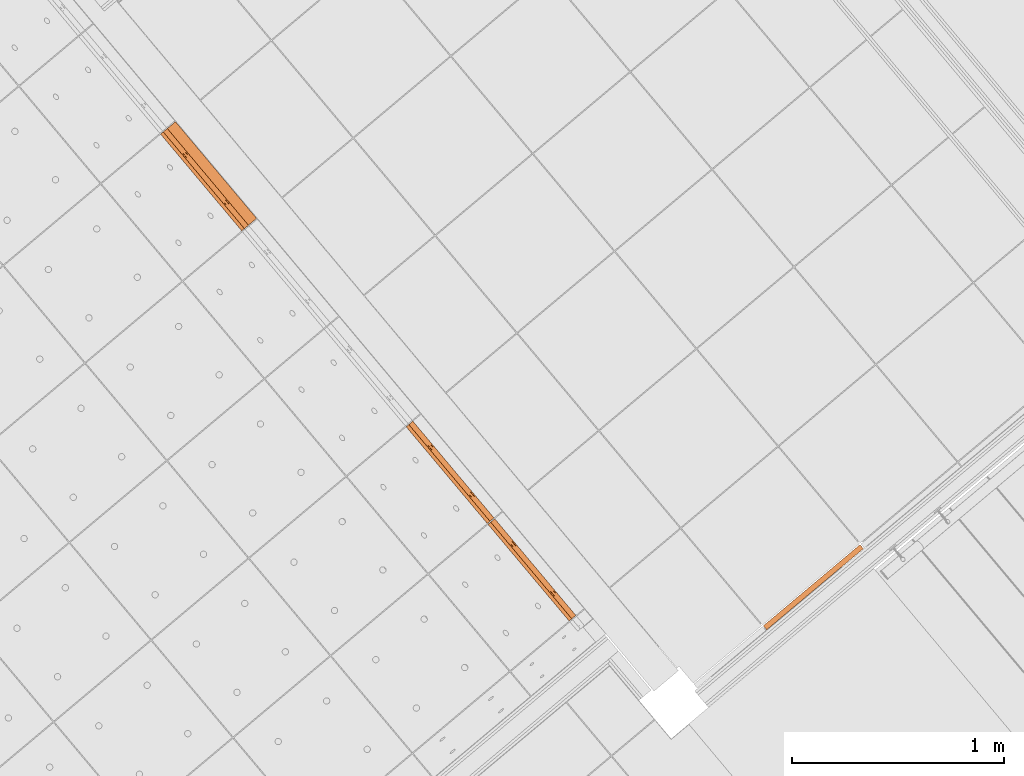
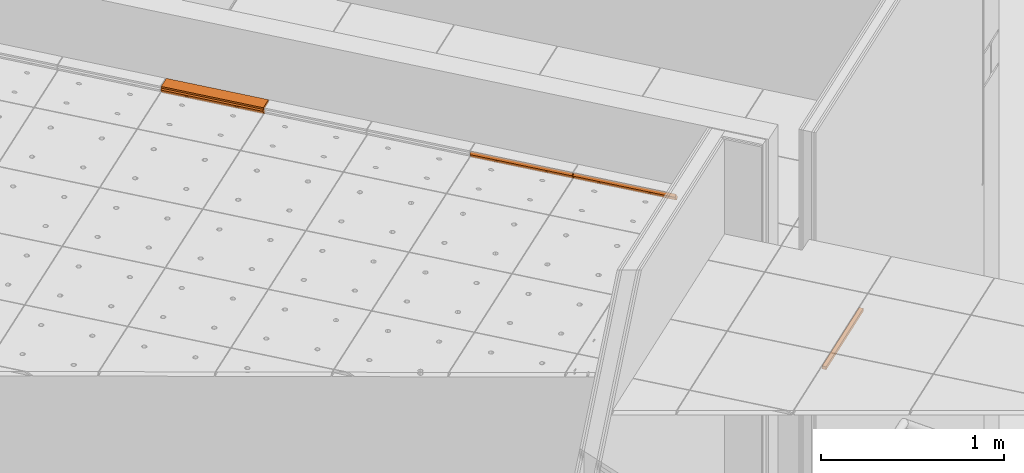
# One storey, part 204 of 338: 5 proxies, 2 elements without a shape of their own.
"""IFC2X3 building model written with IfcOpenShell, lengths in millimetres."""

from ifc_helpers import new_model, entity, si_unit, converted_unit, derived_unit, money_unit, direction, frame, origin_with_axes, place, context, subcontext, project, spatial, faceted_brep, source, transform, mapped, material, type_object, type_shapes, element, aggregate, save


model = new_model("IFC2X3")

# Units and contexts
model_context = context("Model", 3, precision=0.01, world=origin_with_axes(), true_north=direction((0.0, 1.0)))
plan_context = context("Plan", 3, precision=0.01, world=origin_with_axes(), true_north=direction((0.0, 1.0)))
body_context = subcontext(model_context, "Body", "Model", "MODEL_VIEW")
ifc_project = project(units=[si_unit("LENGTHUNIT", "METRE", prefix="MILLI"), si_unit("AREAUNIT", "SQUARE_METRE"), si_unit("VOLUMEUNIT", "CUBIC_METRE"), converted_unit("PLANEANGLEUNIT", "DEGREE", entity("IfcPlaneAngleMeasure", 0.0174532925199), si_unit("PLANEANGLEUNIT", "RADIAN"), dimensions=[0, 0, 0, 0, 0, 0, 0]), money_unit("EUR"), converted_unit("TIMEUNIT", "Year", entity("IfcTimeMeasure", 31556926.0), si_unit("TIMEUNIT", "SECOND"), dimensions=[0, 0, 1, 0, 0, 0, 0]), si_unit("MASSUNIT", "GRAM", prefix="KILO"), si_unit("THERMODYNAMICTEMPERATUREUNIT", "DEGREE_CELSIUS"), si_unit("LUMINOUSINTENSITYUNIT", "LUMEN"), si_unit("ENERGYUNIT", "JOULE", prefix="MEGA"), derived_unit("THERMALCONDUCTANCEUNIT", [(si_unit("POWERUNIT", "WATT"), 1), (si_unit("LENGTHUNIT", "METRE"), -1), (si_unit("THERMODYNAMICTEMPERATUREUNIT", "KELVIN"), -1)]), derived_unit("SPECIFICHEATCAPACITYUNIT", [(si_unit("ENERGYUNIT", "JOULE"), 1), (si_unit("MASSUNIT", "GRAM", prefix="KILO"), -1), (si_unit("THERMODYNAMICTEMPERATUREUNIT", "KELVIN"), -1)]), derived_unit("MASSDENSITYUNIT", [(si_unit("MASSUNIT", "GRAM", prefix="KILO"), 1), (si_unit("VOLUMEUNIT", "CUBIC_METRE"), -1)])], contexts=[model_context, plan_context])

# Site, building, storey
site_placement = place(None, origin_with_axes())
site = spatial("IfcSite", under=ifc_project, at=site_placement, Name="Fortuinstraat Woensdrecht", CompositionType="ELEMENT")
building_placement = place(site_placement, origin_with_axes())
building = spatial("IfcBuilding", under=site, at=building_placement, Name="IKC Fortuna", CompositionType="ELEMENT")
storey_placement = place(building_placement, origin_with_axes())
storey = spatial("IfcBuildingStorey", under=building, at=storey_placement, Name="00 begane grond", CompositionType="ELEMENT", Elevation=0.0)

# Covering, proxy
covering_type = type_object("IfcCoveringType", Name="Curtain Wall Type", PredefinedType="CEILING")
covering_1_placement = place(storey_placement, frame((15581.2998521, 5435.5548951, 3210.0), z_axis=(0.0, 0.0, 1.0), x_axis=(1.0, 0.0, 0.0)))
covering_1 = element("IfcCovering", 1, at=covering_1_placement, inside=storey, type_object=covering_type, Name="45_Plafondafwerking_P02 v", PredefinedType="CEILING")
ifc_material = material(Name="Gipsplaat")
building_element_proxy_type_1 = type_object("IfcBuildingElementProxyType", Name="Distinct Panel 600 x 30 x 20", PredefinedType="NOTDEFINED")
shared_shape_1 = source(origin_with_axes(), body_context, "Body", "Brep", [
    faceted_brep([(-597.500005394, 2.49999903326, -10.0), (-597.500005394, 2.49999903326, 10.0), (-597.500008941, 27.4101366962, 10.0), (-597.500008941, 27.4101366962, -10.0), (-2.499999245, 2.49998852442, -10.0), (-2.499999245, 2.49998852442, 10.0), (-2.49999822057, 27.4101316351, 10.0), (-2.49999822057, 27.4101316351, -10.0)], [[[0, 1, 2, 3]], [[4, 5, 1, 0]], [[1, 5, 6, 2]], [[3, 2, 6, 7]], [[0, 3, 7, 4]], [[7, 6, 5, 4]]]),
])
type_shapes(building_element_proxy_type_1, [shared_shape_1])
proxy_1_placement = place(covering_1_placement, frame((1372.04181394, -826.35350377, 0.0), z_axis=(0.0, 0.0, 1.0), x_axis=(1.0, 0.0, 0.0)))
proxy_1 = element("IfcBuildingElementProxy", 2, at=proxy_1_placement, type_object=building_element_proxy_type_1, material=ifc_material, Name="__Panel-D", context=body_context, shape_type="MappedRepresentation", body=[
    mapped(shared_shape_1, transform((-239.426237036, -181.380073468, 0.0), x_axis=(-0.766044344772, -0.642787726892, 0.0), y_axis=(0.642787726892, -0.766044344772, 0.0), z_axis=(0.0, 0.0, 1.0))),
])
aggregate(covering_1, [proxy_1])

# Covering, proxies
covering_2_placement = place(storey_placement, frame((15863.124366, 4456.31398675, 4619.99995334), z_axis=(0.0, 0.0, 1.0), x_axis=(1.0, 0.0, 0.0)))
covering_2 = element("IfcCovering", 3, at=covering_2_placement, inside=storey, type_object=covering_type, Name="45_Plafondafwerking_P01", PredefinedType="CEILING")
building_element_proxy_type_2 = type_object("IfcBuildingElementProxyType", Name="87 x 600 x 20", PredefinedType="NOTDEFINED")
shared_shape_2 = source(origin_with_axes(), body_context, "Body", "Brep", [
    faceted_brep([(142.231825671, 2.50000288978, -10.0), (224.589027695, 2.49999998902, -10.0), (224.589027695, 2.49999998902, 10.0), (142.231825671, 2.50000288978, 10.0), (142.231835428, 597.500004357, -10.0), (224.589037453, 597.500001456, -10.0), (224.589037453, 597.500001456, 10.0), (142.231835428, 597.500004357, 10.0)], [[[0, 1, 2, 3]], [[0, 4, 5, 1]], [[1, 5, 6, 2]], [[3, 2, 6, 7]], [[4, 0, 3, 7]], [[5, 4, 7, 6]]]),
])
type_shapes(building_element_proxy_type_2, [shared_shape_2])
proxy_2_placement = place(covering_2_placement, frame((-1755.64329393, 2092.29314737, 40.0000466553), z_axis=(0.0, 0.0, 1.0), x_axis=(1.0, 0.0, 0.0)))
proxy_2 = element("IfcBuildingElementProxy", 4, at=proxy_2_placement, type_object=building_element_proxy_type_2, material=ifc_material, Name="__600x725 Rockfon Krios", context=body_context, shape_type="MappedRepresentation", body=[
    mapped(shared_shape_2, transform((-52.3358293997, 347.707272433, -1.1901590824e-10), x_axis=(-0.766044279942, -0.642787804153, 0.0), y_axis=(0.642787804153, -0.766044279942, 0.0), z_axis=(0.0, 0.0, 1.0))),
])
building_element_proxy_type_3 = type_object("IfcBuildingElementProxyType", Name="Main Panel 49 x 600 x 20", PredefinedType="NOTDEFINED")
shared_shape_3 = source(origin_with_axes(), body_context, "Body", "Brep", [
    faceted_brep([(2.49999685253, 2.49999999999, -10.0), (24.3452153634, 2.49999999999, -10.0), (24.3452153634, 2.49999999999, 10.0), (2.49999685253, 2.49999999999, 10.0), (2.49999685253, 300.0, -10.0), (2.49999685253, 597.5, -10.0), (24.3452153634, 597.5, -10.0), (46.1904338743, 597.5, -10.0), (46.1904338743, 300.0, -10.0), (46.1904338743, 2.49999999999, -10.0), (14.5240456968, 450.06232995, -10.0), (14.4905790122, 452.64711538, -10.0), (14.4246625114, 455.11348892, -10.0), (14.3282990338, 457.38651108, -10.0), (14.204416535, 459.39711721, -10.0), (14.0567791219, 461.08421608, -10.0), (13.8898726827, 462.39654603, -10.0), (13.7087685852, 463.29423259, -10.0), (13.5189695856, 463.75, -10.0), (13.3262426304, 463.75, -10.0), (13.1364436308, 463.29423259, -10.0), (12.9553395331, 462.39654603, -10.0), (12.788433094, 461.08421608, -10.0), (12.640795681, 459.39711721, -10.0), (12.5169131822, 457.38651108, -10.0), (12.4205497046, 455.11348892, -10.0), (12.3546332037, 452.64711538, -10.0), (12.3211665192, 450.06232995, -10.0), (12.3211665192, 448.75, -10.0), (12.3211665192, 447.43767005, -10.0), (12.3546332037, 444.85288462, -10.0), (12.4205497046, 442.38651108, -10.0), (12.5169131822, 440.11348892, -10.0), (12.640795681, 438.10288279, -10.0), (12.788433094, 436.41578392, -10.0), (12.9553395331, 435.10345397, -10.0), (13.1364436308, 434.20576741, -10.0), (13.3262426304, 433.75, -10.0), (13.5189695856, 433.75, -10.0), (13.7087685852, 434.20576741, -10.0), (13.8898726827, 435.10345397, -10.0), (14.0567791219, 436.41578392, -10.0), (14.204416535, 438.10288279, -10.0), (14.3282990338, 440.11348892, -10.0), (14.4246625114, 442.38651108, -10.0), (14.4905790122, 444.85288462, -10.0), (14.5240456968, 447.43767005, -10.0), (36.3692642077, 450.06232995, -10.0), (36.3357975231, 452.64711538, -10.0), (36.2698810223, 455.11348892, -10.0), (36.1735175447, 457.38651108, -10.0), (36.0496350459, 459.39711721, -10.0), (35.9019976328, 461.08421608, -10.0), (35.7350911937, 462.39654603, -10.0), (35.5539870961, 463.29423259, -10.0), (35.3641880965, 463.75, -10.0), (35.1714611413, 463.75, -10.0), (34.9816621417, 463.29423259, -10.0), (34.800558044, 462.39654603, -10.0), (34.6336516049, 461.08421608, -10.0), (34.4860141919, 459.39711721, -10.0), (34.3621316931, 457.38651108, -10.0), (34.2657682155, 455.11348892, -10.0), (34.1998517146, 452.64711538, -10.0), (34.1663850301, 450.06232995, -10.0), (34.1663850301, 448.75, -10.0), (34.1663850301, 447.43767005, -10.0), (34.1998517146, 444.85288462, -10.0), (34.2657682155, 442.38651108, -10.0), (34.3621316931, 440.11348892, -10.0), (34.4860141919, 438.10288279, -10.0), (34.6336516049, 436.41578392, -10.0), (34.800558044, 435.10345397, -10.0), (34.9816621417, 434.20576741, -10.0), (35.1714611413, 433.75, -10.0), (35.3641880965, 433.75, -10.0), (35.5539870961, 434.20576741, -10.0), (35.7350911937, 435.10345397, -10.0), (35.9019976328, 436.41578392, -10.0), (36.0496350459, 438.10288279, -10.0), (36.1735175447, 440.11348892, -10.0), (36.2698810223, 442.38651108, -10.0), (36.3357975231, 444.85288462, -10.0), (36.3692642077, 447.43767005, -10.0), (36.3692642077, 152.56232995, -10.0), (36.3357975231, 155.14711538, -10.0), (36.2698810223, 157.61348892, -10.0), (36.1735175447, 159.88651108, -10.0), (36.0496350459, 161.89711721, -10.0), (35.9019976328, 163.58421608, -10.0), (35.7350911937, 164.89654603, -10.0), (35.5539870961, 165.79423259, -10.0), (35.3641880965, 166.25, -10.0), (35.1714611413, 166.25, -10.0), (34.9816621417, 165.79423259, -10.0), (34.800558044, 164.89654603, -10.0), (34.6336516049, 163.58421608, -10.0), (34.4860141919, 161.89711721, -10.0), (34.3621316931, 159.88651108, -10.0), (34.2657682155, 157.61348892, -10.0), (34.1998517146, 155.14711538, -10.0), (34.1663850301, 152.56232995, -10.0), (34.1663850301, 151.25, -10.0), (34.1663850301, 149.93767005, -10.0), (34.1998517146, 147.35288462, -10.0), (34.2657682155, 144.88651108, -10.0), (34.3621316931, 142.61348892, -10.0), (34.4860141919, 140.60288279, -10.0), (34.6336516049, 138.91578392, -10.0), (34.800558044, 137.60345397, -10.0), (34.9816621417, 136.70576741, -10.0), (35.1714611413, 136.25, -10.0), (35.3641880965, 136.25, -10.0), (35.5539870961, 136.70576741, -10.0), (35.7350911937, 137.60345397, -10.0), (35.9019976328, 138.91578392, -10.0), (36.0496350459, 140.60288279, -10.0), (36.1735175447, 142.61348892, -10.0), (36.2698810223, 144.88651108, -10.0), (36.3357975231, 147.35288462, -10.0), (36.3692642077, 149.93767005, -10.0), (14.5240456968, 152.56232995, -10.0), (14.4905790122, 155.14711538, -10.0), (14.4246625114, 157.61348892, -10.0), (14.3282990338, 159.88651108, -10.0), (14.204416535, 161.89711721, -10.0), (14.0567791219, 163.58421608, -10.0), (13.8898726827, 164.89654603, -10.0), (13.7087685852, 165.79423259, -10.0), (13.5189695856, 166.25, -10.0), (13.3262426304, 166.25, -10.0), (13.1364436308, 165.79423259, -10.0), (12.9553395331, 164.89654603, -10.0), (12.788433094, 163.58421608, -10.0), (12.640795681, 161.89711721, -10.0), (12.5169131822, 159.88651108, -10.0), (12.4205497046, 157.61348892, -10.0), (12.3546332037, 155.14711538, -10.0), (12.3211665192, 152.56232995, -10.0), (12.3211665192, 151.25, -10.0), (12.3211665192, 149.93767005, -10.0), (12.3546332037, 147.35288462, -10.0), (12.4205497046, 144.88651108, -10.0), (12.5169131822, 142.61348892, -10.0), (12.640795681, 140.60288279, -10.0), (12.788433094, 138.91578392, -10.0), (12.9553395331, 137.60345397, -10.0), (13.1364436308, 136.70576741, -10.0), (13.3262426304, 136.25, -10.0), (13.5189695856, 136.25, -10.0), (13.7087685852, 136.70576741, -10.0), (13.8898726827, 137.60345397, -10.0), (14.0567791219, 138.91578392, -10.0), (14.204416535, 140.60288279, -10.0), (14.3282990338, 142.61348892, -10.0), (14.4246625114, 144.88651108, -10.0), (14.4905790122, 147.35288462, -10.0), (14.5240456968, 149.93767005, -10.0), (46.1904338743, 2.49999999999, 10.0), (46.1904338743, 300.0, 10.0), (46.1904338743, 597.5, 10.0), (24.3452153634, 597.5, 10.0), (2.49999685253, 597.5, 10.0), (2.49999685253, 300.0, 10.0), (14.5240456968, 450.06232995, 10.0), (14.5240456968, 447.43767005, 10.0), (14.4905790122, 444.85288462, 10.0), (14.4246625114, 442.38651108, 10.0), (14.3282990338, 440.11348892, 10.0), (14.204416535, 438.10288279, 10.0), (14.0567791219, 436.41578392, 10.0), (13.8898726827, 435.10345397, 10.0), (13.7087685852, 434.20576741, 10.0), (13.5189695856, 433.75, 10.0), (13.3262426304, 433.75, 10.0), (13.1364436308, 434.20576741, 10.0), (12.9553395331, 435.10345397, 10.0), (12.788433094, 436.41578392, 10.0), (12.640795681, 438.10288279, 10.0), (12.5169131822, 440.11348892, 10.0), (12.4205497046, 442.38651108, 10.0), (12.3546332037, 444.85288462, 10.0), (12.3211665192, 447.43767005, 10.0), (12.3211665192, 448.75, 10.0), (12.3211665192, 450.06232995, 10.0), (12.3546332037, 452.64711538, 10.0), (12.4205497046, 455.11348892, 10.0), (12.5169131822, 457.38651108, 10.0), (12.640795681, 459.39711721, 10.0), (12.788433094, 461.08421608, 10.0), (12.9553395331, 462.39654603, 10.0), (13.1364436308, 463.29423259, 10.0), (13.3262426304, 463.75, 10.0), (13.5189695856, 463.75, 10.0), (13.7087685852, 463.29423259, 10.0), (13.8898726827, 462.39654603, 10.0), (14.0567791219, 461.08421608, 10.0), (14.204416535, 459.39711721, 10.0), (14.3282990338, 457.38651108, 10.0), (14.4246625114, 455.11348892, 10.0), (14.4905790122, 452.64711538, 10.0), (36.3692642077, 450.06232995, 10.0), (36.3692642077, 447.43767005, 10.0), (36.3357975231, 444.85288462, 10.0), (36.2698810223, 442.38651108, 10.0), (36.1735175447, 440.11348892, 10.0), (36.0496350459, 438.10288279, 10.0), (35.9019976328, 436.41578392, 10.0), (35.7350911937, 435.10345397, 10.0), (35.5539870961, 434.20576741, 10.0), (35.3641880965, 433.75, 10.0), (35.1714611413, 433.75, 10.0), (34.9816621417, 434.20576741, 10.0), (34.800558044, 435.10345397, 10.0), (34.6336516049, 436.41578392, 10.0), (34.4860141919, 438.10288279, 10.0), (34.3621316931, 440.11348892, 10.0), (34.2657682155, 442.38651108, 10.0), (34.1998517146, 444.85288462, 10.0), (34.1663850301, 447.43767005, 10.0), (34.1663850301, 448.75, 10.0), (34.1663850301, 450.06232995, 10.0), (34.1998517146, 452.64711538, 10.0), (34.2657682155, 455.11348892, 10.0), (34.3621316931, 457.38651108, 10.0), (34.4860141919, 459.39711721, 10.0), (34.6336516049, 461.08421608, 10.0), (34.800558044, 462.39654603, 10.0), (34.9816621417, 463.29423259, 10.0), (35.1714611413, 463.75, 10.0), (35.3641880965, 463.75, 10.0), (35.5539870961, 463.29423259, 10.0), (35.7350911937, 462.39654603, 10.0), (35.9019976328, 461.08421608, 10.0), (36.0496350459, 459.39711721, 10.0), (36.1735175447, 457.38651108, 10.0), (36.2698810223, 455.11348892, 10.0), (36.3357975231, 452.64711538, 10.0), (36.3692642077, 152.56232995, 10.0), (36.3692642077, 149.93767005, 10.0), (36.3357975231, 147.35288462, 10.0), (36.2698810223, 144.88651108, 10.0), (36.1735175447, 142.61348892, 10.0), (36.0496350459, 140.60288279, 10.0), (35.9019976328, 138.91578392, 10.0), (35.7350911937, 137.60345397, 10.0), (35.5539870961, 136.70576741, 10.0), (35.3641880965, 136.25, 10.0), (35.1714611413, 136.25, 10.0), (34.9816621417, 136.70576741, 10.0), (34.800558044, 137.60345397, 10.0), (34.6336516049, 138.91578392, 10.0), (34.4860141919, 140.60288279, 10.0), (34.3621316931, 142.61348892, 10.0), (34.2657682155, 144.88651108, 10.0), (34.1998517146, 147.35288462, 10.0), (34.1663850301, 149.93767005, 10.0), (34.1663850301, 151.25, 10.0), (34.1663850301, 152.56232995, 10.0), (34.1998517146, 155.14711538, 10.0), (34.2657682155, 157.61348892, 10.0), (34.3621316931, 159.88651108, 10.0), (34.4860141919, 161.89711721, 10.0), (34.6336516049, 163.58421608, 10.0), (34.800558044, 164.89654603, 10.0), (34.9816621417, 165.79423259, 10.0), (35.1714611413, 166.25, 10.0), (35.3641880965, 166.25, 10.0), (35.5539870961, 165.79423259, 10.0), (35.7350911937, 164.89654603, 10.0), (35.9019976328, 163.58421608, 10.0), (36.0496350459, 161.89711721, 10.0), (36.1735175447, 159.88651108, 10.0), (36.2698810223, 157.61348892, 10.0), (36.3357975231, 155.14711538, 10.0), (14.5240456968, 152.56232995, 10.0), (14.5240456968, 149.93767005, 10.0), (14.4905790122, 147.35288462, 10.0), (14.4246625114, 144.88651108, 10.0), (14.3282990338, 142.61348892, 10.0), (14.204416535, 140.60288279, 10.0), (14.0567791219, 138.91578392, 10.0), (13.8898726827, 137.60345397, 10.0), (13.7087685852, 136.70576741, 10.0), (13.5189695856, 136.25, 10.0), (13.3262426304, 136.25, 10.0), (13.1364436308, 136.70576741, 10.0), (12.9553395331, 137.60345397, 10.0), (12.788433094, 138.91578392, 10.0), (12.640795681, 140.60288279, 10.0), (12.5169131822, 142.61348892, 10.0), (12.4205497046, 144.88651108, 10.0), (12.3546332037, 147.35288462, 10.0), (12.3211665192, 149.93767005, 10.0), (12.3211665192, 151.25, 10.0), (12.3211665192, 152.56232995, 10.0), (12.3546332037, 155.14711538, 10.0), (12.4205497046, 157.61348892, 10.0), (12.5169131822, 159.88651108, 10.0), (12.640795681, 161.89711721, 10.0), (12.788433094, 163.58421608, 10.0), (12.9553395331, 164.89654603, 10.0), (13.1364436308, 165.79423259, 10.0), (13.3262426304, 166.25, 10.0), (13.5189695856, 166.25, 10.0), (13.7087685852, 165.79423259, 10.0), (13.8898726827, 164.89654603, 10.0), (14.0567791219, 163.58421608, 10.0), (14.204416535, 161.89711721, 10.0), (14.3282990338, 159.88651108, 10.0), (14.4246625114, 157.61348892, 10.0), (14.4905790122, 155.14711538, 10.0)], [[[0, 1, 2, 3]], [[0, 4, 5, 6, 7, 8, 9, 1], [10, 11, 12, 13, 14, 15, 16, 17, 18, 19, 20, 21, 22, 23, 24, 25, 26, 27, 28, 29, 30, 31, 32, 33, 34, 35, 36, 37, 38, 39, 40, 41, 42, 43, 44, 45, 46], [47, 48, 49, 50, 51, 52, 53, 54, 55, 56, 57, 58, 59, 60, 61, 62, 63, 64, 65, 66, 67, 68, 69, 70, 71, 72, 73, 74, 75, 76, 77, 78, 79, 80, 81, 82, 83], [84, 85, 86, 87, 88, 89, 90, 91, 92, 93, 94, 95, 96, 97, 98, 99, 100, 101, 102, 103, 104, 105, 106, 107, 108, 109, 110, 111, 112, 113, 114, 115, 116, 117, 118, 119, 120], [121, 122, 123, 124, 125, 126, 127, 128, 129, 130, 131, 132, 133, 134, 135, 136, 137, 138, 139, 140, 141, 142, 143, 144, 145, 146, 147, 148, 149, 150, 151, 152, 153, 154, 155, 156, 157]], [[1, 9, 158, 2]], [[3, 2, 158, 159, 160, 161, 162, 163], [164, 165, 166, 167, 168, 169, 170, 171, 172, 173, 174, 175, 176, 177, 178, 179, 180, 181, 182, 183, 184, 185, 186, 187, 188, 189, 190, 191, 192, 193, 194, 195, 196, 197, 198, 199, 200], [201, 202, 203, 204, 205, 206, 207, 208, 209, 210, 211, 212, 213, 214, 215, 216, 217, 218, 219, 220, 221, 222, 223, 224, 225, 226, 227, 228, 229, 230, 231, 232, 233, 234, 235, 236, 237], [238, 239, 240, 241, 242, 243, 244, 245, 246, 247, 248, 249, 250, 251, 252, 253, 254, 255, 256, 257, 258, 259, 260, 261, 262, 263, 264, 265, 266, 267, 268, 269, 270, 271, 272, 273, 274], [275, 276, 277, 278, 279, 280, 281, 282, 283, 284, 285, 286, 287, 288, 289, 290, 291, 292, 293, 294, 295, 296, 297, 298, 299, 300, 301, 302, 303, 304, 305, 306, 307, 308, 309, 310, 311]], [[4, 0, 3, 163]], [[5, 4, 163, 162]], [[6, 5, 162, 161]], [[7, 6, 161, 160]], [[8, 7, 160, 159]], [[9, 8, 159, 158]], [[11, 10, 164, 200]], [[12, 11, 200, 199]], [[13, 12, 199, 198]], [[14, 13, 198, 197]], [[15, 14, 197, 196]], [[16, 15, 196, 195]], [[17, 16, 195, 194]], [[18, 17, 194, 193]], [[19, 18, 193, 192]], [[20, 19, 192, 191]], [[21, 20, 191, 190]], [[22, 21, 190, 189]], [[23, 22, 189, 188]], [[24, 23, 188, 187]], [[25, 24, 187, 186]], [[26, 25, 186, 185]], [[27, 26, 185, 184]], [[28, 27, 184, 183]], [[29, 28, 183, 182]], [[30, 29, 182, 181]], [[31, 30, 181, 180]], [[32, 31, 180, 179]], [[33, 32, 179, 178]], [[34, 33, 178, 177]], [[35, 34, 177, 176]], [[36, 35, 176, 175]], [[37, 36, 175, 174]], [[38, 37, 174, 173]], [[39, 38, 173, 172]], [[40, 39, 172, 171]], [[41, 40, 171, 170]], [[42, 41, 170, 169]], [[43, 42, 169, 168]], [[44, 43, 168, 167]], [[45, 44, 167, 166]], [[46, 45, 166, 165]], [[10, 46, 165, 164]], [[48, 47, 201, 237]], [[49, 48, 237, 236]], [[50, 49, 236, 235]], [[51, 50, 235, 234]], [[52, 51, 234, 233]], [[53, 52, 233, 232]], [[54, 53, 232, 231]], [[55, 54, 231, 230]], [[56, 55, 230, 229]], [[57, 56, 229, 228]], [[58, 57, 228, 227]], [[59, 58, 227, 226]], [[60, 59, 226, 225]], [[61, 60, 225, 224]], [[62, 61, 224, 223]], [[63, 62, 223, 222]], [[64, 63, 222, 221]], [[65, 64, 221, 220]], [[66, 65, 220, 219]], [[67, 66, 219, 218]], [[68, 67, 218, 217]], [[69, 68, 217, 216]], [[70, 69, 216, 215]], [[71, 70, 215, 214]], [[72, 71, 214, 213]], [[73, 72, 213, 212]], [[74, 73, 212, 211]], [[75, 74, 211, 210]], [[76, 75, 210, 209]], [[77, 76, 209, 208]], [[78, 77, 208, 207]], [[79, 78, 207, 206]], [[80, 79, 206, 205]], [[81, 80, 205, 204]], [[82, 81, 204, 203]], [[83, 82, 203, 202]], [[47, 83, 202, 201]], [[85, 84, 238, 274]], [[86, 85, 274, 273]], [[87, 86, 273, 272]], [[88, 87, 272, 271]], [[89, 88, 271, 270]], [[90, 89, 270, 269]], [[91, 90, 269, 268]], [[92, 91, 268, 267]], [[93, 92, 267, 266]], [[94, 93, 266, 265]], [[95, 94, 265, 264]], [[96, 95, 264, 263]], [[97, 96, 263, 262]], [[98, 97, 262, 261]], [[99, 98, 261, 260]], [[100, 99, 260, 259]], [[101, 100, 259, 258]], [[102, 101, 258, 257]], [[103, 102, 257, 256]], [[104, 103, 256, 255]], [[105, 104, 255, 254]], [[106, 105, 254, 253]], [[107, 106, 253, 252]], [[108, 107, 252, 251]], [[109, 108, 251, 250]], [[110, 109, 250, 249]], [[111, 110, 249, 248]], [[112, 111, 248, 247]], [[113, 112, 247, 246]], [[114, 113, 246, 245]], [[115, 114, 245, 244]], [[116, 115, 244, 243]], [[117, 116, 243, 242]], [[118, 117, 242, 241]], [[119, 118, 241, 240]], [[120, 119, 240, 239]], [[84, 120, 239, 238]], [[122, 121, 275, 311]], [[123, 122, 311, 310]], [[124, 123, 310, 309]], [[125, 124, 309, 308]], [[126, 125, 308, 307]], [[127, 126, 307, 306]], [[128, 127, 306, 305]], [[129, 128, 305, 304]], [[130, 129, 304, 303]], [[131, 130, 303, 302]], [[132, 131, 302, 301]], [[133, 132, 301, 300]], [[134, 133, 300, 299]], [[135, 134, 299, 298]], [[136, 135, 298, 297]], [[137, 136, 297, 296]], [[138, 137, 296, 295]], [[139, 138, 295, 294]], [[140, 139, 294, 293]], [[141, 140, 293, 292]], [[142, 141, 292, 291]], [[143, 142, 291, 290]], [[144, 143, 290, 289]], [[145, 144, 289, 288]], [[146, 145, 288, 287]], [[147, 146, 287, 286]], [[148, 147, 286, 285]], [[149, 148, 285, 284]], [[150, 149, 284, 283]], [[151, 150, 283, 282]], [[152, 151, 282, 281]], [[153, 152, 281, 280]], [[154, 153, 280, 279]], [[155, 154, 279, 278]], [[156, 155, 278, 277]], [[157, 156, 277, 276]], [[121, 157, 276, 275]]]),
])
type_shapes(building_element_proxy_type_3, [shared_shape_3])
proxy_3_placement = place(covering_2_placement, frame((-1778.46936896, 2073.13978636, 20.0000466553), z_axis=(0.0, 0.0, 1.0), x_axis=(-0.642787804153, 0.766044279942, 0.0)))
proxy_3 = element("IfcBuildingElementProxy", 5, at=proxy_3_placement, type_object=building_element_proxy_type_3, material=ifc_material, Name="__600x840 Rockfon Krios", context=body_context, shape_type="MappedRepresentation", body=[
    mapped(shared_shape_3, transform((300.0, 13.8812675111, 20.0), x_axis=(0.0, -0.570184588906, -0.821516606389), y_axis=(-1.0, 0.0, 0.0), z_axis=(0.0, 0.821516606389, -0.570184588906))),
])
proxy_4_placement = place(covering_2_placement, frame((-621.45132149, 694.260082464, 20.0000466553), z_axis=(0.0, 0.0, 1.0), x_axis=(-0.642787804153, 0.766044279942, 0.0)))
proxy_4 = element("IfcBuildingElementProxy", 6, at=proxy_4_placement, type_object=building_element_proxy_type_3, material=ifc_material, Name="__600x879 Rockfon Krios", context=body_context, shape_type="MappedRepresentation", body=[
    mapped(shared_shape_3, transform((300.0, 13.8812675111, 20.0), x_axis=(0.0, -0.570184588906, -0.821516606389), y_axis=(-1.0, 0.0, 0.0), z_axis=(0.0, 0.821516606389, -0.570184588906))),
])
proxy_5_placement = place(covering_2_placement, frame((-235.778638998, 234.633514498, 20.0000466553), z_axis=(0.0, 0.0, 1.0), x_axis=(-0.642787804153, 0.766044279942, 0.0)))
proxy_5 = element("IfcBuildingElementProxy", 7, at=proxy_5_placement, type_object=building_element_proxy_type_3, material=ifc_material, Name="__600x892 Rockfon Krios", context=body_context, shape_type="MappedRepresentation", body=[
    mapped(shared_shape_3, transform((300.0, 13.8812675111, 20.0), x_axis=(0.0, -0.570184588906, -0.821516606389), y_axis=(-1.0, 0.0, 0.0), z_axis=(0.0, 0.821516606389, -0.570184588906))),
])
aggregate(covering_2, [proxy_2, proxy_3, proxy_4, proxy_5])

save(model, "model.ifc")
